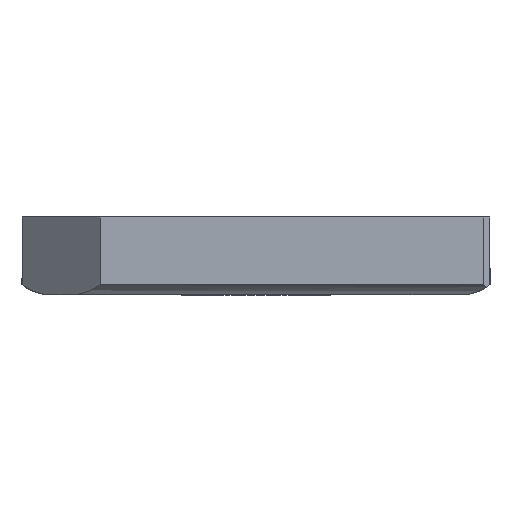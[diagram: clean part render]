
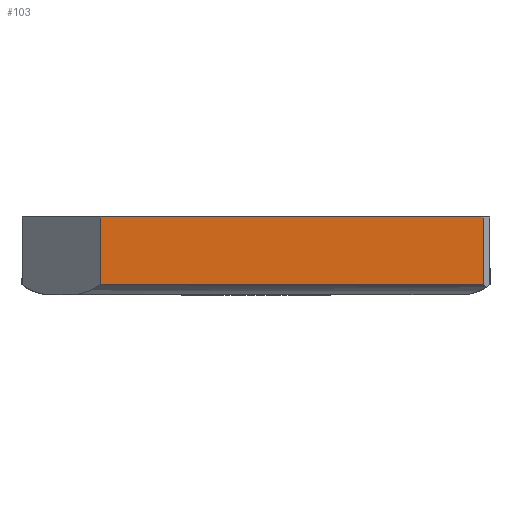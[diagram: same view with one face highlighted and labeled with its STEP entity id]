
A CAD part, left-side view. The second image highlights one B-rep face of the part: STEP entity #103.
In plain terms, the highlighted planar face has unit normal (-1, 0, 0).
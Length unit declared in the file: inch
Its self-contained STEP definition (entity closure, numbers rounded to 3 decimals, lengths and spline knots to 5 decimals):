
#4 = VECTOR ( 'NONE', #1006, 39.37008 ) ;
#25 = PLANE ( 'NONE',  #791 ) ;
#39 = VECTOR ( 'NONE', #1419, 39.37008 ) ;
#95 = DIRECTION ( 'NONE',  ( 0., 1., 0. ) ) ;
#103 = ADVANCED_FACE ( 'NONE', ( #976 ), #25, .F. ) ;
#132 = CARTESIAN_POINT ( 'NONE',  ( 0., -0.698, 0.01515 ) ) ;
#196 = EDGE_CURVE ( 'NONE', #801, #275, #908, .T. ) ;
#245 = LINE ( 'NONE', #1068, #1082 ) ;
#275 = VERTEX_POINT ( 'NONE', #1175 ) ;
#284 = VERTEX_POINT ( 'NONE', #1295 ) ;
#292 = LINE ( 'NONE', #458, #4 ) ;
#336 = ORIENTED_EDGE ( 'NONE', *, *, #196, .T. ) ;
#349 = DIRECTION ( 'NONE',  ( 0., 0., 1. ) ) ;
#426 = LINE ( 'NONE', #741, #39 ) ;
#458 = CARTESIAN_POINT ( 'NONE',  ( 0., 0., 0.01515 ) ) ;
#522 = DIRECTION ( 'NONE',  ( 0., -1., 0. ) ) ;
#558 = CARTESIAN_POINT ( 'NONE',  ( 0., -0.118, 0.01515 ) ) ;
#571 = CARTESIAN_POINT ( 'NONE',  ( 0., -0.698, 0.118 ) ) ;
#609 = EDGE_CURVE ( 'NONE', #284, #275, #245, .T. ) ;
#626 = ORIENTED_EDGE ( 'NONE', *, *, #609, .F. ) ;
#713 = VERTEX_POINT ( 'NONE', #558 ) ;
#741 = CARTESIAN_POINT ( 'NONE',  ( 0., -0.118, 0.118 ) ) ;
#785 = EDGE_CURVE ( 'NONE', #713, #801, #292, .T. ) ;
#791 = AXIS2_PLACEMENT_3D ( 'NONE', #1338, #945, #95 ) ;
#801 = VERTEX_POINT ( 'NONE', #132 ) ;
#878 = EDGE_LOOP ( 'NONE', ( #1335, #336, #626, #1423 ) ) ;
#908 = LINE ( 'NONE', #571, #1166 ) ;
#945 = DIRECTION ( 'NONE',  ( 1., 0., 0. ) ) ;
#976 = FACE_OUTER_BOUND ( 'NONE', #878, .T. ) ;
#1006 = DIRECTION ( 'NONE',  ( 0., -1., 0. ) ) ;
#1068 = CARTESIAN_POINT ( 'NONE',  ( 0., 0., 0.118 ) ) ;
#1082 = VECTOR ( 'NONE', #522, 39.37008 ) ;
#1166 = VECTOR ( 'NONE', #349, 39.37008 ) ;
#1175 = CARTESIAN_POINT ( 'NONE',  ( 0., -0.698, 0.118 ) ) ;
#1179 = EDGE_CURVE ( 'NONE', #284, #713, #426, .T. ) ;
#1295 = CARTESIAN_POINT ( 'NONE',  ( 0., -0.118, 0.118 ) ) ;
#1335 = ORIENTED_EDGE ( 'NONE', *, *, #785, .T. ) ;
#1338 = CARTESIAN_POINT ( 'NONE',  ( 0., 0., 0.118 ) ) ;
#1419 = DIRECTION ( 'NONE',  ( 0., 0., -1. ) ) ;
#1423 = ORIENTED_EDGE ( 'NONE', *, *, #1179, .T. ) ;
